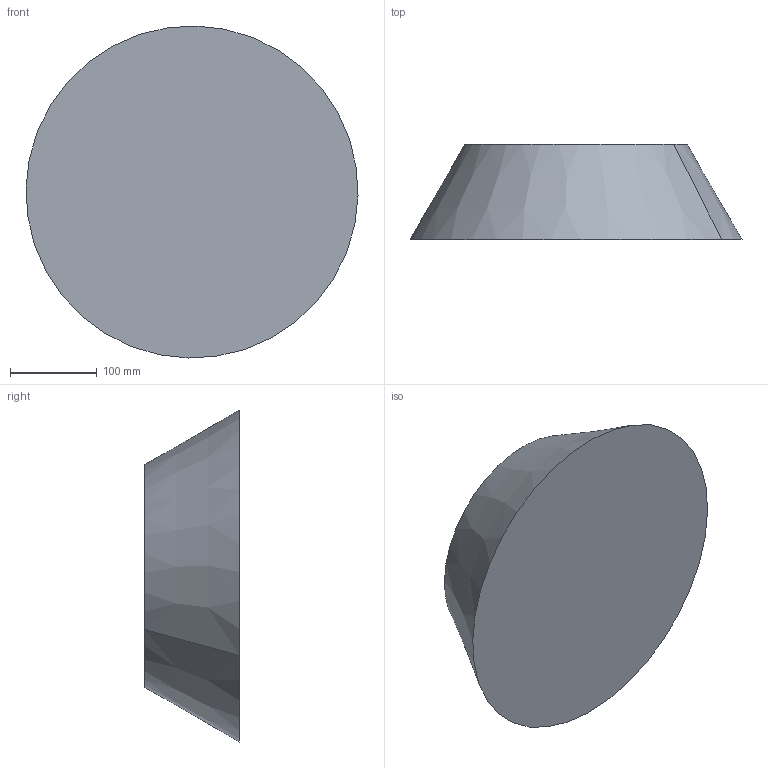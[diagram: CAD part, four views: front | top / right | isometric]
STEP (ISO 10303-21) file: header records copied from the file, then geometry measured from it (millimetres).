
FILE_DESCRIPTION(('CATIA V5 STEP Exchange'),'2;1');
FILE_NAME('C:\_Andres\UNIVERSIDAD\IQS\ASIGNATURAS\DAO\EXF\EXF-16172c\2inicio\Domeque_Sanz_Ej09_v9.stp','2017-03-05T22:13:11+00:00',('none'),('none'),'CATIA Version 5-6 Release 2014 SP1 HF18','CATIA V5 STEP AP203','none');
FILE_SCHEMA(('CONFIG_CONTROL_DESIGN'));
Length unit declared in the file: millimetre
Products named in the file (1): Domeque_Sanz_Ej09_v9
Bounding box: 381.89 x 109 x 381.89 mm (x, y, z)
Volume: 8820514.3 mm3; surface area: 294497.2 mm2
Topology: 1 solids, 2 shells, 8 faces, 12 edges, 8 vertices
Faces by surface type: plane 4, cone 2, cylinder 2
Entity records: 205 total; most frequent: CARTESIAN_POINT 27, DIRECTION 24, ORIENTED_EDGE 24, AXIS2_PLACEMENT_3D 15, EDGE_CURVE 12, ADVANCED_FACE 8, CIRCLE 8, EDGE_LOOP 8
